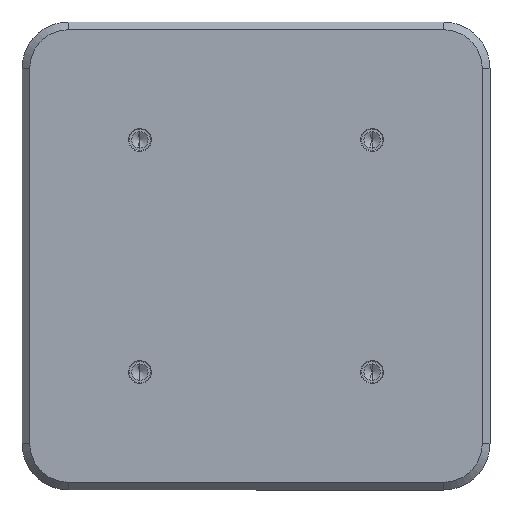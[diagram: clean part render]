
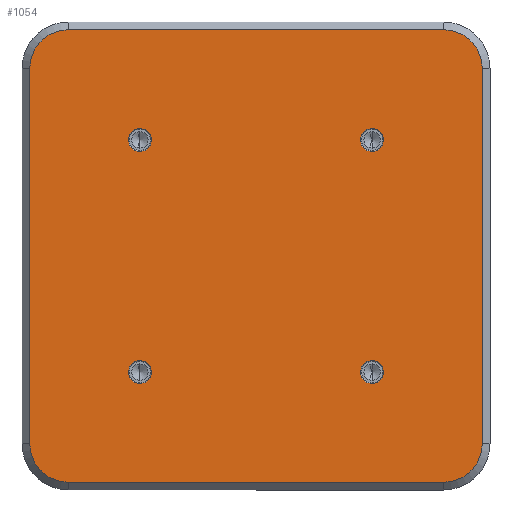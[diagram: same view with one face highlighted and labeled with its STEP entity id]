
A CAD part, front view. The second image highlights one B-rep face of the part: STEP entity #1054.
In plain terms, the highlighted planar face has unit normal (0, -1, 0).
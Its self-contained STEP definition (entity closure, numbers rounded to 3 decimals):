
#31 = CARTESIAN_POINT ( 'NONE',  ( -30., 0., 27. ) ) ;
#35 = CARTESIAN_POINT ( 'NONE',  ( -48.5, 0., 58.5 ) ) ;
#44 = ORIENTED_EDGE ( 'NONE', *, *, #1175, .T. ) ;
#53 = CARTESIAN_POINT ( 'NONE',  ( -30., 0., 33. ) ) ;
#62 = CIRCLE ( 'NONE', #442, 10. ) ;
#74 = CIRCLE ( 'NONE', #570, 3. ) ;
#77 = VERTEX_POINT ( 'NONE', #1491 ) ;
#90 = ORIENTED_EDGE ( 'NONE', *, *, #1515, .T. ) ;
#106 = CIRCLE ( 'NONE', #513, 10. ) ;
#124 = VERTEX_POINT ( 'NONE', #1088 ) ;
#132 = ORIENTED_EDGE ( 'NONE', *, *, #1264, .T. ) ;
#147 = VERTEX_POINT ( 'NONE', #1653 ) ;
#167 = VERTEX_POINT ( 'NONE', #875 ) ;
#207 = VERTEX_POINT ( 'NONE', #899 ) ;
#221 = DIRECTION ( 'NONE',  ( 0., 0., 1. ) ) ;
#227 = DIRECTION ( 'NONE',  ( 0., 1., 0. ) ) ;
#230 = CARTESIAN_POINT ( 'NONE',  ( -30., 0., -30. ) ) ;
#233 = VERTEX_POINT ( 'NONE', #642 ) ;
#240 = ORIENTED_EDGE ( 'NONE', *, *, #1241, .T. ) ;
#247 = ORIENTED_EDGE ( 'NONE', *, *, #1201, .T. ) ;
#251 = VERTEX_POINT ( 'NONE', #1623 ) ;
#260 = DIRECTION ( 'NONE',  ( 0., 0., -1. ) ) ;
#269 = AXIS2_PLACEMENT_3D ( 'NONE', #1274, #717, #1549 ) ;
#277 = EDGE_LOOP ( 'NONE', ( #132, #1525 ) ) ;
#284 = ORIENTED_EDGE ( 'NONE', *, *, #1416, .T. ) ;
#316 = DIRECTION ( 'NONE',  ( 0., 0., 1. ) ) ;
#328 = AXIS2_PLACEMENT_3D ( 'NONE', #692, #1004, #316 ) ;
#330 = ORIENTED_EDGE ( 'NONE', *, *, #1473, .T. ) ;
#357 = EDGE_LOOP ( 'NONE', ( #1086, #497 ) ) ;
#369 = ORIENTED_EDGE ( 'NONE', *, *, #1346, .T. ) ;
#376 = CIRCLE ( 'NONE', #269, 3. ) ;
#405 = VERTEX_POINT ( 'NONE', #31 ) ;
#411 = CARTESIAN_POINT ( 'NONE',  ( 58.5, 0., -48.5 ) ) ;
#429 = VERTEX_POINT ( 'NONE', #35 ) ;
#431 = DIRECTION ( 'NONE',  ( -1., 0., 0. ) ) ;
#437 = CARTESIAN_POINT ( 'NONE',  ( -60.5, 0., 58.5 ) ) ;
#442 = AXIS2_PLACEMENT_3D ( 'NONE', #1675, #1454, #1403 ) ;
#475 = VERTEX_POINT ( 'NONE', #53 ) ;
#495 = VECTOR ( 'NONE', #736, 1000. ) ;
#497 = ORIENTED_EDGE ( 'NONE', *, *, #1554, .T. ) ;
#513 = AXIS2_PLACEMENT_3D ( 'NONE', #613, #1703, #556 ) ;
#516 = VECTOR ( 'NONE', #431, 1000. ) ;
#524 = LINE ( 'NONE', #568, #495 ) ;
#533 = CIRCLE ( 'NONE', #764, 3. ) ;
#556 = DIRECTION ( 'NONE',  ( 0., 0., 1. ) ) ;
#559 = CIRCLE ( 'NONE', #328, 3. ) ;
#561 = CARTESIAN_POINT ( 'NONE',  ( 48.5, 0., 48.5 ) ) ;
#562 = DIRECTION ( 'NONE',  ( 0., -1., 0. ) ) ;
#565 = DIRECTION ( 'NONE',  ( 0., 0., 1. ) ) ;
#568 = CARTESIAN_POINT ( 'NONE',  ( 58.5, 0., -60.5 ) ) ;
#570 = AXIS2_PLACEMENT_3D ( 'NONE', #1608, #1459, #751 ) ;
#590 = LINE ( 'NONE', #437, #516 ) ;
#601 = AXIS2_PLACEMENT_3D ( 'NONE', #561, #562, #565 ) ;
#612 = ORIENTED_EDGE ( 'NONE', *, *, #1409, .T. ) ;
#613 = CARTESIAN_POINT ( 'NONE',  ( -48.5, 0., 48.5 ) ) ;
#628 = ORIENTED_EDGE ( 'NONE', *, *, #1376, .T. ) ;
#634 = CARTESIAN_POINT ( 'NONE',  ( -30., 0., -33. ) ) ;
#642 = CARTESIAN_POINT ( 'NONE',  ( 30., 0., 27. ) ) ;
#649 = ORIENTED_EDGE ( 'NONE', *, *, #1536, .T. ) ;
#666 = CIRCLE ( 'NONE', #857, 3. ) ;
#676 = DIRECTION ( 'NONE',  ( 0., 1., 0. ) ) ;
#686 = VERTEX_POINT ( 'NONE', #1096 ) ;
#692 = CARTESIAN_POINT ( 'NONE',  ( -30., 0., 30. ) ) ;
#698 = VERTEX_POINT ( 'NONE', #799 ) ;
#716 = LINE ( 'NONE', #1671, #737 ) ;
#717 = DIRECTION ( 'NONE',  ( 0., 1., 0. ) ) ;
#725 = ORIENTED_EDGE ( 'NONE', *, *, #1527, .T. ) ;
#727 = DIRECTION ( 'NONE',  ( 0., 0., 1. ) ) ;
#732 = CARTESIAN_POINT ( 'NONE',  ( -58.5, 0., -60.5 ) ) ;
#736 = DIRECTION ( 'NONE',  ( 0., 0., 1. ) ) ;
#737 = VECTOR ( 'NONE', #1699, 1000. ) ;
#751 = DIRECTION ( 'NONE',  ( 0., 0., 1. ) ) ;
#764 = AXIS2_PLACEMENT_3D ( 'NONE', #770, #676, #727 ) ;
#769 = EDGE_LOOP ( 'NONE', ( #649, #369, #44, #284, #330, #612, #90, #240 ) ) ;
#770 = CARTESIAN_POINT ( 'NONE',  ( -30., 0., 30. ) ) ;
#799 = CARTESIAN_POINT ( 'NONE',  ( 30., 0., -33. ) ) ;
#845 = CIRCLE ( 'NONE', #904, 3. ) ;
#857 = AXIS2_PLACEMENT_3D ( 'NONE', #230, #227, #221 ) ;
#875 = CARTESIAN_POINT ( 'NONE',  ( -48.5, 0., -58.5 ) ) ;
#877 = DIRECTION ( 'NONE',  ( 0., 0., 1. ) ) ;
#879 = DIRECTION ( 'NONE',  ( 0., -1., 0. ) ) ;
#880 = CARTESIAN_POINT ( 'NONE',  ( 48.5, 0., -48.5 ) ) ;
#881 = CIRCLE ( 'NONE', #908, 3. ) ;
#899 = CARTESIAN_POINT ( 'NONE',  ( 48.5, 0., -58.5 ) ) ;
#903 = VECTOR ( 'NONE', #260, 1000. ) ;
#904 = AXIS2_PLACEMENT_3D ( 'NONE', #1354, #1355, #1356 ) ;
#908 = AXIS2_PLACEMENT_3D ( 'NONE', #1291, #1294, #1295 ) ;
#920 = AXIS2_PLACEMENT_3D ( 'NONE', #1696, #1637, #1250 ) ;
#929 = AXIS2_PLACEMENT_3D ( 'NONE', #880, #879, #877 ) ;
#931 = VERTEX_POINT ( 'NONE', #1213 ) ;
#946 = AXIS2_PLACEMENT_3D ( 'NONE', #1310, #1234, #1225 ) ;
#951 = LINE ( 'NONE', #732, #903 ) ;
#977 = CARTESIAN_POINT ( 'NONE',  ( 30., 0., -27. ) ) ;
#1004 = DIRECTION ( 'NONE',  ( 0., 1., 0. ) ) ;
#1047 = CIRCLE ( 'NONE', #920, 3. ) ;
#1054 = ADVANCED_FACE ( 'NONE', ( #1177, #1215, #1167, #1151, #1251 ), #1203, .F. ) ;
#1058 = EDGE_LOOP ( 'NONE', ( #247, #628 ) ) ;
#1074 = CIRCLE ( 'NONE', #929, 10. ) ;
#1086 = ORIENTED_EDGE ( 'NONE', *, *, #1412, .T. ) ;
#1088 = CARTESIAN_POINT ( 'NONE',  ( -58.5, 0., -48.5 ) ) ;
#1096 = CARTESIAN_POINT ( 'NONE',  ( -30., 0., -27. ) ) ;
#1151 = FACE_BOUND ( 'NONE', #1358, .T. ) ;
#1167 = FACE_BOUND ( 'NONE', #277, .T. ) ;
#1175 = EDGE_CURVE ( 'NONE', #207, #1583, #1074, .T. ) ;
#1177 = FACE_OUTER_BOUND ( 'NONE', #769, .T. ) ;
#1201 = EDGE_CURVE ( 'NONE', #1682, #686, #1047, .T. ) ;
#1203 = PLANE ( 'NONE',  #946 ) ;
#1213 = CARTESIAN_POINT ( 'NONE',  ( 58.5, 0., 48.5 ) ) ;
#1215 = FACE_BOUND ( 'NONE', #1058, .T. ) ;
#1225 = DIRECTION ( 'NONE',  ( 0., 0., 1. ) ) ;
#1234 = DIRECTION ( 'NONE',  ( 0., 1., 0. ) ) ;
#1241 = EDGE_CURVE ( 'NONE', #251, #124, #951, .T. ) ;
#1250 = DIRECTION ( 'NONE',  ( 0., 0., 1. ) ) ;
#1251 = FACE_BOUND ( 'NONE', #357, .T. ) ;
#1264 = EDGE_CURVE ( 'NONE', #698, #1585, #881, .T. ) ;
#1274 = CARTESIAN_POINT ( 'NONE',  ( 30., 0., -30. ) ) ;
#1291 = CARTESIAN_POINT ( 'NONE',  ( 30., 0., -30. ) ) ;
#1293 = EDGE_CURVE ( 'NONE', #233, #77, #845, .T. ) ;
#1294 = DIRECTION ( 'NONE',  ( 0., 1., 0. ) ) ;
#1295 = DIRECTION ( 'NONE',  ( 0., 0., 1. ) ) ;
#1310 = CARTESIAN_POINT ( 'NONE',  ( -60.5, 0., -60.5 ) ) ;
#1346 = EDGE_CURVE ( 'NONE', #167, #207, #716, .T. ) ;
#1354 = CARTESIAN_POINT ( 'NONE',  ( 30., 0., 30. ) ) ;
#1355 = DIRECTION ( 'NONE',  ( 0., 1., 0. ) ) ;
#1356 = DIRECTION ( 'NONE',  ( 0., 0., 1. ) ) ;
#1358 = EDGE_LOOP ( 'NONE', ( #1533, #725 ) ) ;
#1376 = EDGE_CURVE ( 'NONE', #686, #1682, #666, .T. ) ;
#1403 = DIRECTION ( 'NONE',  ( 0., 0., 1. ) ) ;
#1409 = EDGE_CURVE ( 'NONE', #147, #429, #590, .T. ) ;
#1412 = EDGE_CURVE ( 'NONE', #405, #475, #533, .T. ) ;
#1416 = EDGE_CURVE ( 'NONE', #1583, #931, #524, .T. ) ;
#1454 = DIRECTION ( 'NONE',  ( 0., -1., 0. ) ) ;
#1459 = DIRECTION ( 'NONE',  ( 0., 1., 0. ) ) ;
#1473 = EDGE_CURVE ( 'NONE', #931, #147, #1484, .T. ) ;
#1484 = CIRCLE ( 'NONE', #601, 10. ) ;
#1491 = CARTESIAN_POINT ( 'NONE',  ( 30., 0., 33. ) ) ;
#1515 = EDGE_CURVE ( 'NONE', #429, #251, #106, .T. ) ;
#1525 = ORIENTED_EDGE ( 'NONE', *, *, #1557, .T. ) ;
#1527 = EDGE_CURVE ( 'NONE', #77, #233, #74, .T. ) ;
#1533 = ORIENTED_EDGE ( 'NONE', *, *, #1293, .T. ) ;
#1536 = EDGE_CURVE ( 'NONE', #124, #167, #62, .T. ) ;
#1549 = DIRECTION ( 'NONE',  ( 0., 0., 1. ) ) ;
#1554 = EDGE_CURVE ( 'NONE', #475, #405, #559, .T. ) ;
#1557 = EDGE_CURVE ( 'NONE', #1585, #698, #376, .T. ) ;
#1583 = VERTEX_POINT ( 'NONE', #411 ) ;
#1585 = VERTEX_POINT ( 'NONE', #977 ) ;
#1608 = CARTESIAN_POINT ( 'NONE',  ( 30., 0., 30. ) ) ;
#1623 = CARTESIAN_POINT ( 'NONE',  ( -58.5, 0., 48.5 ) ) ;
#1637 = DIRECTION ( 'NONE',  ( 0., 1., 0. ) ) ;
#1653 = CARTESIAN_POINT ( 'NONE',  ( 48.5, 0., 58.5 ) ) ;
#1671 = CARTESIAN_POINT ( 'NONE',  ( -60.5, 0., -58.5 ) ) ;
#1675 = CARTESIAN_POINT ( 'NONE',  ( -48.5, 0., -48.5 ) ) ;
#1682 = VERTEX_POINT ( 'NONE', #634 ) ;
#1696 = CARTESIAN_POINT ( 'NONE',  ( -30., 0., -30. ) ) ;
#1699 = DIRECTION ( 'NONE',  ( 1., 0., 0. ) ) ;
#1703 = DIRECTION ( 'NONE',  ( 0., -1., 0. ) ) ;
